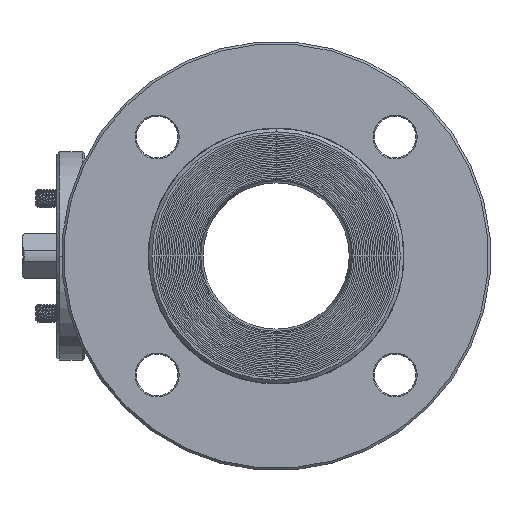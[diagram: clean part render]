
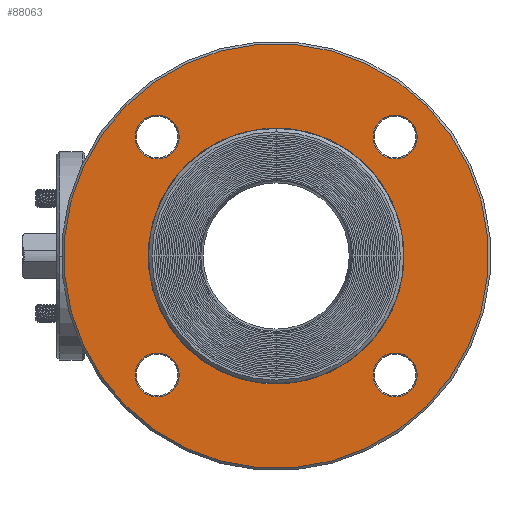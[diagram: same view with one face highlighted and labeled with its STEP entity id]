
A CAD part, left-side view. The second image highlights one B-rep face of the part: STEP entity #88063.
In plain terms, the highlighted planar face has unit normal (-1, 0, 0).
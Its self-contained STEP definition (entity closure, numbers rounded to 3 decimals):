
#5867=CARTESIAN_POINT('',(-83.,0.,0.));
#5868=DIRECTION('',(-1.,0.,0.));
#5869=DIRECTION('',(0.,0.707,0.707));
#5870=AXIS2_PLACEMENT_3D('',#5867,#5868,#5869);
#5875=CARTESIAN_POINT('',(-83.,0.,0.));
#5876=DIRECTION('',(-1.,0.,0.));
#5877=DIRECTION('',(0.,-0.707,-0.707));
#5878=AXIS2_PLACEMENT_3D('',#5875,#5876,#5877);
#5883=CARTESIAN_POINT('',(-83.,0.,0.));
#5884=DIRECTION('',(-1.,0.,0.));
#5885=DIRECTION('',(0.,0.707,0.707));
#5886=AXIS2_PLACEMENT_3D('',#5883,#5884,#5885);
#5891=CARTESIAN_POINT('',(-83.,0.,0.));
#5892=DIRECTION('',(-1.,0.,0.));
#5893=DIRECTION('',(0.,-0.707,-0.707));
#5894=AXIS2_PLACEMENT_3D('',#5891,#5892,#5893);
#6065=CARTESIAN_POINT('',(-83.,-51.265,-51.265));
#6066=DIRECTION('',(1.,0.,0.));
#6067=DIRECTION('',(0.,-0.707,-0.707));
#6068=AXIS2_PLACEMENT_3D('',#6065,#6066,#6067);
#6095=CARTESIAN_POINT('',(-83.,-51.265,-51.265));
#6096=DIRECTION('',(1.,0.,0.));
#6097=DIRECTION('',(0.,0.707,0.707));
#6098=AXIS2_PLACEMENT_3D('',#6095,#6096,#6097);
#6171=CARTESIAN_POINT('',(-83.,51.265,-51.265));
#6172=DIRECTION('',(1.,0.,0.));
#6173=DIRECTION('',(0.,-0.707,-0.707));
#6174=AXIS2_PLACEMENT_3D('',#6171,#6172,#6173);
#6201=CARTESIAN_POINT('',(-83.,51.265,-51.265));
#6202=DIRECTION('',(1.,0.,0.));
#6203=DIRECTION('',(0.,0.707,0.707));
#6204=AXIS2_PLACEMENT_3D('',#6201,#6202,#6203);
#6277=CARTESIAN_POINT('',(-83.,51.265,51.265));
#6278=DIRECTION('',(1.,0.,0.));
#6279=DIRECTION('',(0.,-0.707,-0.707));
#6280=AXIS2_PLACEMENT_3D('',#6277,#6278,#6279);
#6293=CARTESIAN_POINT('',(-83.,51.265,51.265));
#6294=DIRECTION('',(1.,0.,0.));
#6295=DIRECTION('',(0.,0.707,0.707));
#6296=AXIS2_PLACEMENT_3D('',#6293,#6294,#6295);
#6383=CARTESIAN_POINT('',(-83.,-51.265,51.265));
#6384=DIRECTION('',(1.,0.,0.));
#6385=DIRECTION('',(0.,-0.707,-0.707));
#6386=AXIS2_PLACEMENT_3D('',#6383,#6384,#6385);
#6413=CARTESIAN_POINT('',(-83.,-51.265,51.265));
#6414=DIRECTION('',(1.,0.,0.));
#6415=DIRECTION('',(0.,0.707,0.707));
#6416=AXIS2_PLACEMENT_3D('',#6413,#6414,#6415);
#81756=CARTESIAN_POINT('',(-83.,-44.548,57.983));
#81757=CARTESIAN_POINT('',(-83.,-57.983,44.548));
#81758=VERTEX_POINT('',#81756);
#81759=VERTEX_POINT('',#81757);
#81764=CARTESIAN_POINT('',(-83.,44.548,44.548));
#81765=CARTESIAN_POINT('',(-83.,57.983,57.983));
#81766=VERTEX_POINT('',#81764);
#81767=VERTEX_POINT('',#81765);
#81772=CARTESIAN_POINT('',(-83.,57.983,-44.548));
#81773=CARTESIAN_POINT('',(-83.,44.548,-57.983));
#81774=VERTEX_POINT('',#81772);
#81775=VERTEX_POINT('',#81773);
#81780=CARTESIAN_POINT('',(-83.,-44.548,-44.548));
#81781=CARTESIAN_POINT('',(-83.,-57.983,-57.983));
#81782=VERTEX_POINT('',#81780);
#81783=VERTEX_POINT('',#81781);
#81820=CARTESIAN_POINT('',(-83.,38.997,38.997));
#81821=CARTESIAN_POINT('',(-83.,-38.997,-38.997));
#81822=VERTEX_POINT('',#81820);
#81823=VERTEX_POINT('',#81821);
#81836=CARTESIAN_POINT('',(-83.,64.7,64.7));
#81837=CARTESIAN_POINT('',(-83.,-64.7,-64.7));
#81838=VERTEX_POINT('',#81836);
#81839=VERTEX_POINT('',#81837);
#88024=CARTESIAN_POINT('',(-83.,0.,0.));
#88025=DIRECTION('',(-1.,0.,0.));
#88026=DIRECTION('',(0.,-0.707,-0.707));
#88027=AXIS2_PLACEMENT_3D('',#88024,#88025,#88026);
#88028=PLANE('',#88027);
#88030=ORIENTED_EDGE('',*,*,#88029,.F.);
#88032=ORIENTED_EDGE('',*,*,#88031,.F.);
#88033=EDGE_LOOP('',(#88030,#88032));
#88034=FACE_OUTER_BOUND('',#88033,.F.);
#88036=ORIENTED_EDGE('',*,*,#88035,.F.);
#88038=ORIENTED_EDGE('',*,*,#88037,.F.);
#88039=EDGE_LOOP('',(#88036,#88038));
#88040=FACE_BOUND('',#88039,.F.);
#88042=ORIENTED_EDGE('',*,*,#88041,.F.);
#88044=ORIENTED_EDGE('',*,*,#88043,.F.);
#88045=EDGE_LOOP('',(#88042,#88044));
#88046=FACE_BOUND('',#88045,.F.);
#88048=ORIENTED_EDGE('',*,*,#88047,.F.);
#88050=ORIENTED_EDGE('',*,*,#88049,.F.);
#88051=EDGE_LOOP('',(#88048,#88050));
#88052=FACE_BOUND('',#88051,.F.);
#88054=ORIENTED_EDGE('',*,*,#88053,.F.);
#88056=ORIENTED_EDGE('',*,*,#88055,.F.);
#88057=EDGE_LOOP('',(#88054,#88056));
#88058=FACE_BOUND('',#88057,.F.);
#88059=ORIENTED_EDGE('',*,*,#88018,.T.);
#88060=ORIENTED_EDGE('',*,*,#87975,.T.);
#88061=EDGE_LOOP('',(#88059,#88060));
#88062=FACE_BOUND('',#88061,.F.);
#88063=ADVANCED_FACE('',(#88034,#88040,#88046,#88052,#88058,#88062),#88028,.T.);
#5871=CIRCLE('',#5870,91.5);
#5879=CIRCLE('',#5878,91.5);
#5887=CIRCLE('',#5886,55.15);
#5895=CIRCLE('',#5894,55.15);
#6069=CIRCLE('',#6068,9.5);
#6099=CIRCLE('',#6098,9.5);
#6175=CIRCLE('',#6174,9.5);
#6205=CIRCLE('',#6204,9.5);
#6281=CIRCLE('',#6280,9.5);
#6297=CIRCLE('',#6296,9.5);
#6387=CIRCLE('',#6386,9.5);
#6417=CIRCLE('',#6416,9.5);
#87975=EDGE_CURVE('',#81823,#81822,#5895,.T.);
#88018=EDGE_CURVE('',#81822,#81823,#5887,.T.);
#88029=EDGE_CURVE('',#81838,#81839,#5871,.T.);
#88031=EDGE_CURVE('',#81839,#81838,#5879,.T.);
#88035=EDGE_CURVE('',#81783,#81782,#6069,.T.);
#88037=EDGE_CURVE('',#81782,#81783,#6099,.T.);
#88041=EDGE_CURVE('',#81775,#81774,#6175,.T.);
#88043=EDGE_CURVE('',#81774,#81775,#6205,.T.);
#88047=EDGE_CURVE('',#81766,#81767,#6281,.T.);
#88049=EDGE_CURVE('',#81767,#81766,#6297,.T.);
#88053=EDGE_CURVE('',#81759,#81758,#6387,.T.);
#88055=EDGE_CURVE('',#81758,#81759,#6417,.T.);
